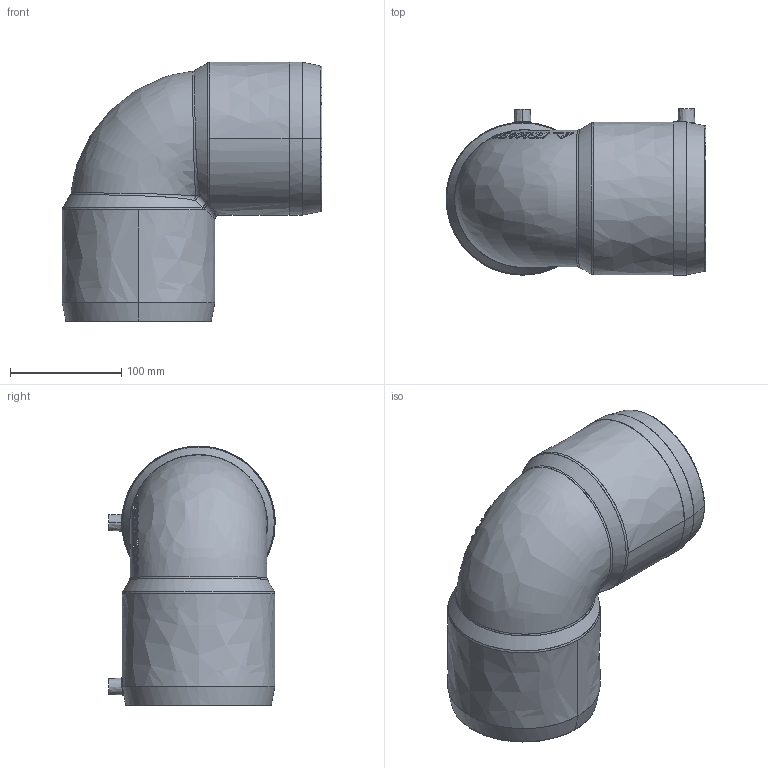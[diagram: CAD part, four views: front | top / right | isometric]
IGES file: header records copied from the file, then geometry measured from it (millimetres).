
Start section:  PTC IGES file: w90_d110_01.igs
Global section: file name: w90_d110_01.igs; native system: Pro/ENGINEER by Parametric Technology Corporation; preprocessor: 2011490; author: mtunjic; organization: Unknown; date: 20130812.092341; units: millimetre
Bounding box: 233.75 x 149.85 x 234.05 mm (x, y, z)
Surface area: 238389.8 mm2 (no closed solid volume)
Topology: 0 solids, 0 shells, 200 faces, 1010 edges, 1010 vertices
Faces by surface type: bspline 200
